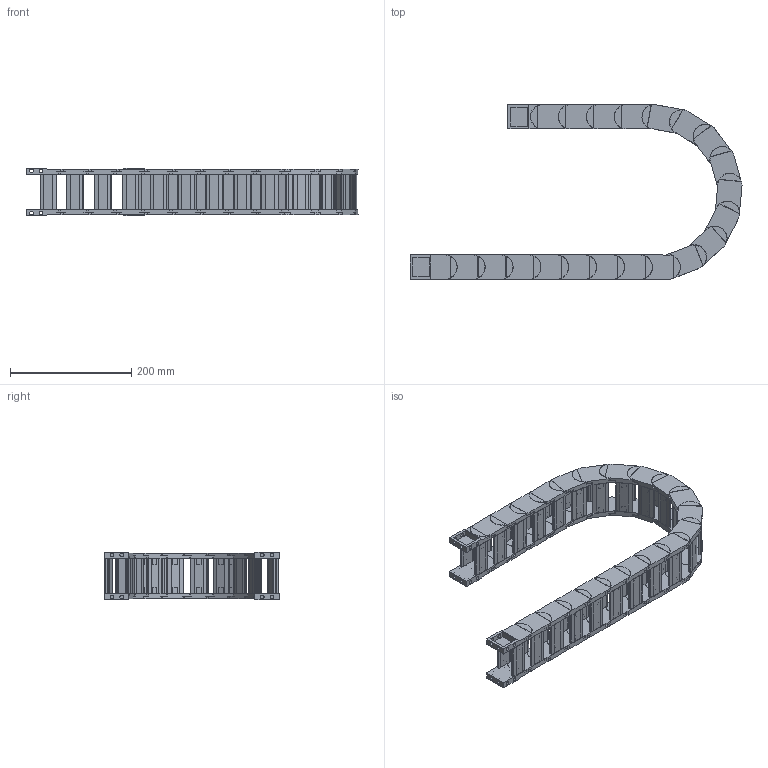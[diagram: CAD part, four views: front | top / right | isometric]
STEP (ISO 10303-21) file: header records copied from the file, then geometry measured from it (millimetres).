
FILE_DESCRIPTION((''),'2;1');
FILE_NAME('HD25-R125-ZPT_ASM','2022-06-05T16:48:10',('admin'),(''),'CREO PARAMETRIC BY PTC INC, 2021164','CREO PARAMETRIC BY PTC INC, 2021164','');
FILE_SCHEMA(('CONFIG_CONTROL_DESIGN','GEOMETRIC_VALIDATION_PROPERTIES_MIM'));
Length unit declared in the file: millimetre
Products named in the file (6): HD-25_8; 25XL-QSYP-57; HD25_ASM; H25-T1; H25-T2; HD25-R125-ZPT_ASM
Assembly tree (26 placements, depth 3):
  HD25-R125-ZPT_ASM
    HD25_ASM  x20
      HD-25_8
      25XL-QSYP-57
    H25-T1
    H25-T2
    25XL-QSYP-57  x2
Bounding box: 547.41 x 287.95 x 78.9 mm (x, y, z)
Volume: 1025028 mm3; surface area: 539125.6 mm2
Topology: 88 solids, 88 shells, 1906 faces, 4935 edges, 3297 vertices
Faces by surface type: plane 1426, cylinder 480
Entity records: 9918 total; most frequent: CARTESIAN_POINT 1455, DIRECTION 1398, ORIENTED_EDGE 1336, EDGE_CURVE 668, VECTOR 498, LINE 498, AXIS2_PLACEMENT_3D 450, VERTEX_POINT 446
